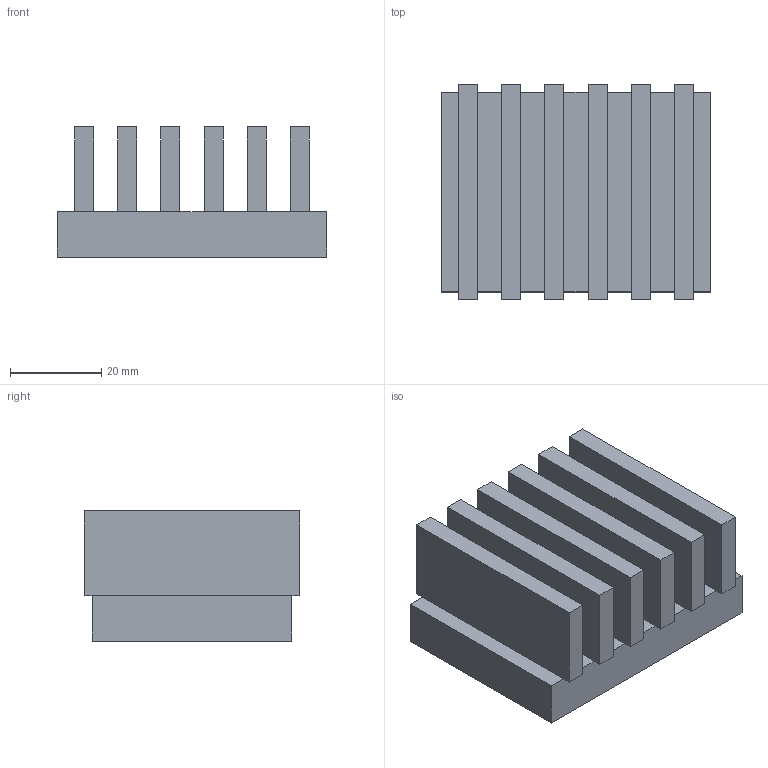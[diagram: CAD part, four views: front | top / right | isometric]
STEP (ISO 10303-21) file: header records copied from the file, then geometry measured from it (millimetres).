
FILE_DESCRIPTION(('Mechanical CAD reference from nasji.com'),'2;1');
FILE_NAME('NASJI.step','',(''),(''),'','NASJI distribution','');
FILE_SCHEMA(('AUTOMOTIVE_DESIGN { 1 0 10303 214 1 1 1 1 }'));
Length unit declared in the file: millimetre
Products named in the file (1): Open CASCADE STEP translator 7.8 109
Bounding box: 59.24 x 47.39 x 28.6 mm (x, y, z)
Volume: 48219.9 mm3; surface area: 18955.4 mm2
Topology: 1 solids, 1 shells, 54 faces, 132 edges, 80 vertices
Faces by surface type: plane 54
Entity records: 3250 total; most frequent: CARTESIAN_POINT 531, DIRECTION 506, LINE 396, VECTOR 396, ORIENTED_EDGE 264, PCURVE 264, DEFINITIONAL_REPRESENTATION 264, EDGE_CURVE 132
